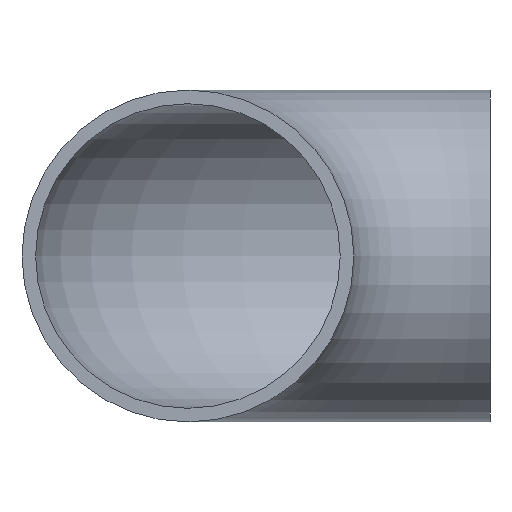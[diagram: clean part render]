
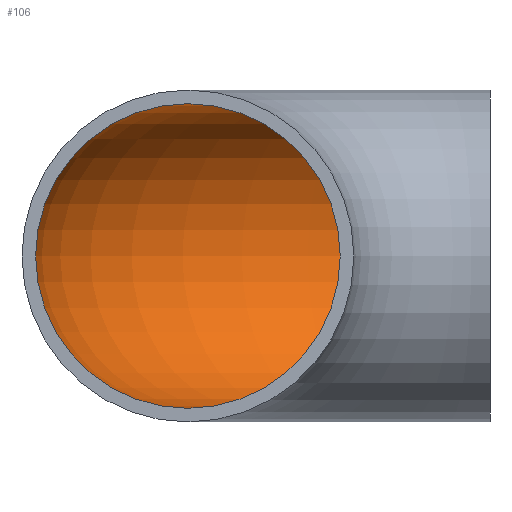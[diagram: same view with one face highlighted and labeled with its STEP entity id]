
A CAD part, front view. The second image highlights one B-rep face of the part: STEP entity #106.
In plain terms, the highlighted toroidal (fillet/blend) face has major radius 100.5 mm and minor radius 50.67 mm.
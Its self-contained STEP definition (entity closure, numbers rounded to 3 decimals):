
#13=TOROIDAL_SURFACE($,#122,100.5,50.67);
#25=FACE_BOUND($,#47,.T.);
#34=FACE_OUTER_BOUND($,#46,.T.);
#46=EDGE_LOOP($,(#85));
#47=EDGE_LOOP($,(#86));
#55=CIRCLE($,#119,50.67);
#57=CIRCLE($,#123,50.67);
#63=VERTEX_POINT($,#217);
#65=VERTEX_POINT($,#223);
#71=EDGE_CURVE($,#63,#63,#55,.T.);
#73=EDGE_CURVE($,#65,#65,#57,.T.);
#85=ORIENTED_EDGE($,*,*,#73,.T.);
#86=ORIENTED_EDGE($,*,*,#71,.F.);
#106=ADVANCED_FACE($,(#34,#25),#13,.F.);
#119=AXIS2_PLACEMENT_3D($,#218,#143,#144);
#122=AXIS2_PLACEMENT_3D($,#222,#149,#150);
#123=AXIS2_PLACEMENT_3D($,#224,#151,#152);
#143=DIRECTION('center_axis',(-1.,0.,0.));
#144=DIRECTION('ref_axis',(0.,1.,0.));
#149=DIRECTION('center_axis',(0.,0.,-1.));
#150=DIRECTION('ref_axis',(-1.,0.,0.));
#151=DIRECTION('center_axis',(0.,-1.,0.));
#152=DIRECTION('ref_axis',(1.,0.,0.));
#217=CARTESIAN_POINT('',(100.5,321.67,0.));
#218=CARTESIAN_POINT('Origin',(100.5,271.,0.));
#222=CARTESIAN_POINT('Origin',(100.5,170.5,0.));
#223=CARTESIAN_POINT('',(-50.67,170.5,0.));
#224=CARTESIAN_POINT('Origin',(0.,170.5,0.));
